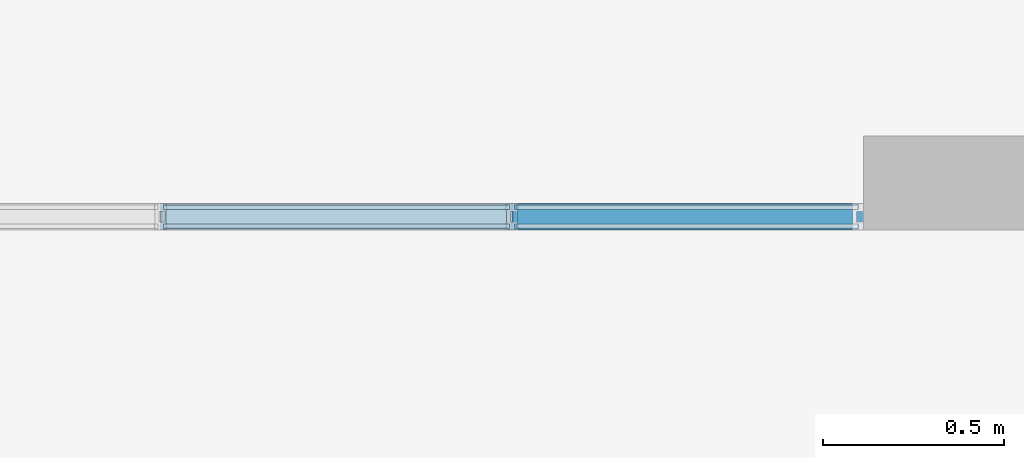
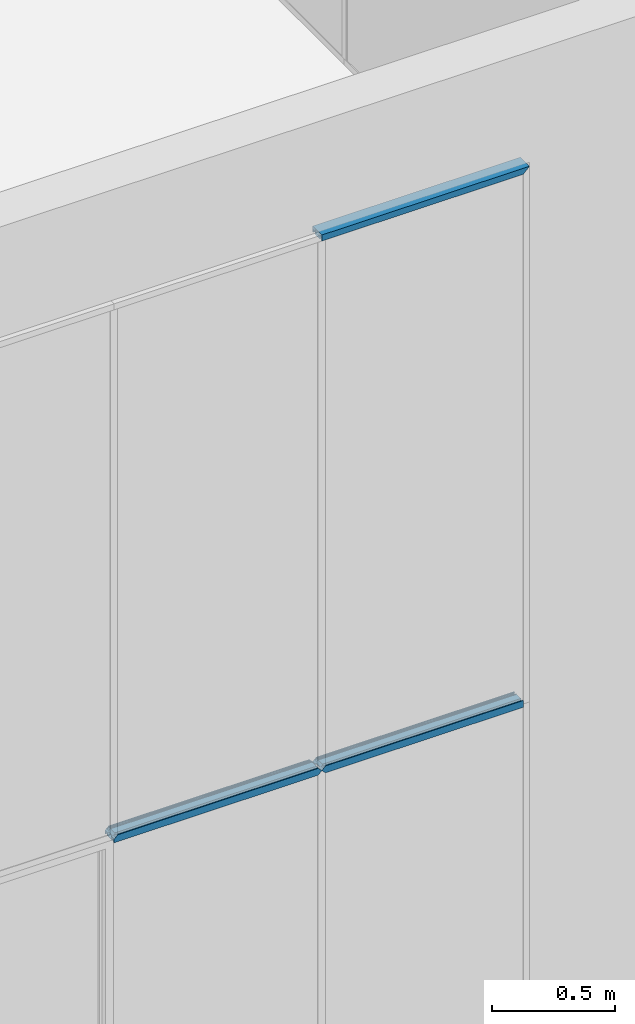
# One storey, part 88 of 246: 3 members, 1 element without a shape of its own.
"""IFC2X3 building model written with IfcOpenShell, lengths in millimetres."""

from ifc_helpers import new_model, entity, si_unit, converted_unit, derived_unit, money_unit, direction, frame, origin_with_axes, place, context, subcontext, project, spatial, faceted_brep, material, material_list, type_object, element, aggregate, save


model = new_model("IFC2X3")

# Units and contexts
model_context = context("Model", 3, precision=0.01, world=origin_with_axes(), true_north=direction((0.0, 1.0)))
body_context = subcontext(model_context, "Body", "Model", "MODEL_VIEW")
ifc_project = project(units=[si_unit("LENGTHUNIT", "METRE", prefix="MILLI"), si_unit("AREAUNIT", "SQUARE_METRE"), si_unit("VOLUMEUNIT", "CUBIC_METRE"), converted_unit("PLANEANGLEUNIT", "DEGREE", entity("IfcPlaneAngleMeasure", 0.0174532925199), si_unit("PLANEANGLEUNIT", "RADIAN"), dimensions=[0, 0, 0, 0, 0, 0, 0]), si_unit("SOLIDANGLEUNIT", "STERADIAN"), money_unit("EUR"), converted_unit("TIMEUNIT", "Year", entity("IfcTimeMeasure", 31556926.0), si_unit("TIMEUNIT", "SECOND"), dimensions=[0, 0, 1, 0, 0, 0, 0]), si_unit("MASSUNIT", "GRAM", prefix="KILO"), si_unit("THERMODYNAMICTEMPERATUREUNIT", "DEGREE_CELSIUS"), si_unit("LUMINOUSINTENSITYUNIT", "LUMEN"), si_unit("ENERGYUNIT", "JOULE", prefix="MEGA"), derived_unit("THERMALCONDUCTANCEUNIT", [(si_unit("POWERUNIT", "WATT"), 1), (si_unit("LENGTHUNIT", "METRE"), -1), (si_unit("THERMODYNAMICTEMPERATUREUNIT", "KELVIN"), -1)]), derived_unit("SPECIFICHEATCAPACITYUNIT", [(si_unit("ENERGYUNIT", "JOULE"), 1), (si_unit("MASSUNIT", "GRAM", prefix="KILO"), -1), (si_unit("THERMODYNAMICTEMPERATUREUNIT", "KELVIN"), -1)]), derived_unit("MASSDENSITYUNIT", [(si_unit("MASSUNIT", "GRAM", prefix="KILO"), 1), (si_unit("VOLUMEUNIT", "CUBIC_METRE"), -1)])], contexts=[model_context])

# Site, building, storey
site_placement = place(None, origin_with_axes())
site = spatial("IfcSite", under=ifc_project, at=site_placement, Name="L.Koidula tn 11b", CompositionType="ELEMENT")
building_placement = place(site_placement, origin_with_axes())
building = spatial("IfcBuilding", under=site, at=building_placement, Name="Rakvere Riigigümnaasium", CompositionType="ELEMENT")
storey_placement = place(building_placement, origin_with_axes())
storey = spatial("IfcBuildingStorey", under=building, at=storey_placement, Name="1.korrus 0,00", CompositionType="ELEMENT", Elevation=0.0)

# Curtain wall, members
curtain_wall_type = type_object("IfcCurtainWallType", Name="Curtain Wall Type", PredefinedType="NOTDEFINED")
curtain_wall_placement = place(storey_placement, frame((26572.4999007, 61372.4546496, 0.0), z_axis=(0.0, 0.0, 1.0), x_axis=(1.0, 0.0, 0.0)))
curtain_wall = element("IfcCurtainWall", 1, at=curtain_wall_placement, inside=storey, type_object=curtain_wall_type, Name="SKLF-01")
ifc_material_1 = material(Name="Klaasvill")
ifc_material_2 = material(Name="Teras RAL7012")
ifc_material_list = material_list([ifc_material_1, ifc_material_2])
member_type_1 = type_object("IfcMemberType", Name="Boundary Frame 30 x 42", PredefinedType="MULLION")
member_1_placement = place(curtain_wall_placement, frame((1945.0, 0.0, 5050.0), z_axis=(1.0, 0.0, 0.0), x_axis=(0.0, 0.0, 1.0)))
member_1 = element("IfcMember", 2, at=member_1_placement, type_object=member_type_1, material=ifc_material_list, Name="SKLF-70-raam", ObjectType="MULLION", context=body_context, shape_type="Brep", body=[
    faceted_brep([(-7.49999990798, 15.000000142, 0.0), (-7.49999990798, 15.000000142, 964.99009084), (-13.8499999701, 15.000000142, 958.640090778), (-13.8499999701, 15.000000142, 0.0), (-7.49999990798, 29.0161444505, 0.0), (-7.49999990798, 29.0161444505, 964.99009084), (-13.8499999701, 29.0161444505, 958.640090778), (-13.8499999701, 29.0161444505, 0.0)], [[[0, 1, 2, 3]], [[4, 5, 1, 0]], [[1, 5, 6, 2]], [[3, 2, 6, 7]], [[0, 3, 7, 4]], [[7, 6, 5, 4]]]),
    faceted_brep([(-24.987414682, 29.0161444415, 0.0), (-24.987414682, 29.0161444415, 947.502676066), (-25.004489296, 27.0307503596, 947.485601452), (-25.004489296, 27.0307503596, 0.0), (-28.5126239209, 29.0161444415, 0.0), (-28.5126239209, 29.0161444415, 943.977466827), (-28.7655837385, 28.0385325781, 943.724507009), (-28.4955493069, 27.0307503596, 943.994541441), (-27.75780152, 26.2930025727, 944.732289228), (-26.7500193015, 26.0229681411, 945.740071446), (-25.742237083, 26.2930025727, 946.747853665), (-25.742237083, 26.2930025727, 0.0), (-26.7500193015, 26.0229681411, 0.0), (-27.75780152, 26.2930025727, 0.0), (-28.4955493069, 27.0307503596, 0.0), (-28.7655837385, 28.0385325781, 0.0)], [[[0, 1, 2, 3]], [[4, 5, 1, 0]], [[1, 5, 6, 7, 8, 9, 10, 2]], [[3, 2, 10, 11]], [[0, 3, 11, 12, 13, 14, 15, 4]], [[15, 6, 5, 4]], [[14, 7, 6, 15]], [[13, 8, 7, 14]], [[12, 9, 8, 13]], [[11, 10, 9, 12]]]),
    faceted_brep([(-7.49999990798, -24.9999997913, 0.0), (-7.49999990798, -24.9999997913, 964.99009084), (-7.49999990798, -39.0161445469, 964.99009084), (-7.49999990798, -39.0161445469, 0.0), (-13.8499999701, -24.9999997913, 0.0), (-13.8499999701, -24.9999997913, 958.640090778), (-13.8499999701, -39.0161445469, 958.640090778), (-13.8499999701, -39.0161445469, 0.0)], [[[0, 1, 2, 3]], [[4, 5, 1, 0]], [[1, 5, 6, 2]], [[3, 2, 6, 7]], [[0, 3, 7, 4]], [[7, 6, 5, 4]]]),
    faceted_brep([(-25.004489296, -37.0307503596, 0.0), (-25.004489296, -37.0307503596, 947.485601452), (-24.987414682, -39.0161444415, 947.502676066), (-24.987414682, -39.0161444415, 0.0), (-25.742237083, -36.2930025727, 0.0), (-25.742237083, -36.2930025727, 946.747853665), (-26.7500193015, -36.0229681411, 945.740071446), (-27.75780152, -36.2930025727, 944.732289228), (-28.4955493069, -37.0307503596, 943.994541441), (-28.7655837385, -38.0385325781, 943.724507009), (-28.5126239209, -39.0161444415, 943.977466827), (-28.5126239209, -39.0161444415, 0.0), (-28.7655837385, -38.0385325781, 0.0), (-28.4955493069, -37.0307503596, 0.0), (-27.75780152, -36.2930025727, 0.0), (-26.7500193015, -36.0229681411, 0.0)], [[[0, 1, 2, 3]], [[4, 5, 1, 0]], [[1, 5, 6, 7, 8, 9, 10, 2]], [[3, 2, 10, 11]], [[0, 3, 11, 12, 13, 14, 15, 4]], [[15, 6, 5, 4]], [[14, 7, 6, 15]], [[13, 8, 7, 14]], [[12, 9, 8, 13]], [[11, 10, 9, 12]]]),
    faceted_brep([(0.0, -22.0000000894, 0.0), (0.0, -22.0000000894, 972.490090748), (-29.5999996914, -22.0000000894, 942.890091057), (-29.5999996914, -22.0000000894, 0.0), (0.0, 12.0000000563, 0.0), (0.0, 12.0000000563, 972.490090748), (-29.5999996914, 12.0000000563, 942.890091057), (-1.9999999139, 10.0000001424, 970.490090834), (-1.9999999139, -20.0000001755, 970.490090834), (-18.7999996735, -20.0000001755, 953.690091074), (-18.7999996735, 10.0000001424, 953.690091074), (-29.5999996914, 12.0000000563, 0.0), (-1.9999999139, 10.0000001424, 0.0), (-18.7999996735, 10.0000001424, 0.0), (-18.7999996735, -20.0000001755, 0.0), (-1.9999999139, -20.0000001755, 0.0)], [[[0, 1, 2, 3]], [[4, 5, 1, 0]], [[1, 5, 6, 2], [7, 8, 9, 10]], [[3, 2, 6, 11]], [[0, 3, 11, 4], [12, 13, 14, 15]], [[11, 6, 5, 4]], [[15, 8, 7, 12]], [[14, 9, 8, 15]], [[13, 10, 9, 14]], [[12, 7, 10, 13]]]),
    faceted_brep([(0.0, 12.0, 0.0), (0.0, 12.0, 972.490090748), (-29.5999996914, 12.0000000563, 942.890091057), (-29.5999996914, 12.0000000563, 0.0), (0.0, 32.0, 0.0), (0.0, 32.0, 972.490090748), (-30.0000193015, 32.0, 942.490071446), (-30.0000193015, 29.0161444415, 942.490071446), (-28.5126239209, 29.0161444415, 943.977466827), (-24.987414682, 29.0161444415, 947.502676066), (-13.8499999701, 29.0161444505, 958.640090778), (-7.49999999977, 29.0161444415, 964.990090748), (-7.49999999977, 15.0, 964.990090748), (-13.8499999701, 15.000000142, 958.640090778), (-30.0000193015, 15.0, 942.490071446), (-30.0000193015, 12.0, 942.490071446), (-30.0000193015, 12.0, 0.0), (-30.0000193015, 15.0, 0.0), (-13.8499999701, 15.000000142, 0.0), (-7.49999999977, 15.0, 0.0), (-7.49999999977, 29.0161444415, 0.0), (-13.8499999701, 29.0161444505, 0.0), (-24.987414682, 29.0161444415, 0.0), (-28.5126239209, 29.0161444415, 0.0), (-30.0000193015, 29.0161444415, 0.0), (-30.0000193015, 32.0, 0.0)], [[[0, 1, 2, 3]], [[4, 5, 1, 0]], [[1, 5, 6, 7, 8, 9, 10, 11, 12, 13, 14, 15, 2]], [[3, 2, 15, 16]], [[0, 3, 16, 17, 18, 19, 20, 21, 22, 23, 24, 25, 4]], [[25, 6, 5, 4]], [[24, 7, 6, 25]], [[23, 8, 7, 24]], [[22, 9, 8, 23]], [[21, 10, 9, 22]], [[20, 11, 10, 21]], [[19, 12, 11, 20]], [[18, 13, 12, 19]], [[17, 14, 13, 18]], [[16, 15, 14, 17]]]),
    faceted_brep([(0.0, -22.0, 0.0), (0.0, -22.0, 972.490090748), (0.0, -42.0, 972.490090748), (0.0, -42.0, 0.0), (-29.5999996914, -22.0000000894, 0.0), (-29.5999996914, -22.0000000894, 942.890091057), (-30.0000193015, -22.0, 942.490071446), (-30.0000193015, -25.0, 942.490071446), (-13.8499999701, -24.9999997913, 958.640090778), (-7.49999999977, -25.0, 964.990090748), (-7.49999999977, -39.0161444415, 964.990090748), (-13.8499999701, -39.0161445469, 958.640090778), (-24.987414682, -39.0161444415, 947.502676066), (-28.5126239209, -39.0161444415, 943.977466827), (-30.0000193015, -39.0161444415, 942.490071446), (-30.0000193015, -42.0, 942.490071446), (-30.0000193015, -42.0, 0.0), (-30.0000193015, -39.0161444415, 0.0), (-28.5126239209, -39.0161444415, 0.0), (-24.987414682, -39.0161444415, 0.0), (-13.8499999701, -39.0161445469, 0.0), (-7.49999999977, -39.0161444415, 0.0), (-7.49999999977, -25.0, 0.0), (-13.8499999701, -24.9999997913, 0.0), (-30.0000193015, -25.0, 0.0), (-30.0000193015, -22.0, 0.0)], [[[0, 1, 2, 3]], [[4, 5, 1, 0]], [[1, 5, 6, 7, 8, 9, 10, 11, 12, 13, 14, 15, 2]], [[3, 2, 15, 16]], [[0, 3, 16, 17, 18, 19, 20, 21, 22, 23, 24, 25, 4]], [[25, 6, 5, 4]], [[24, 7, 6, 25]], [[23, 8, 7, 24]], [[22, 9, 8, 23]], [[21, 10, 9, 22]], [[20, 11, 10, 21]], [[19, 12, 11, 20]], [[18, 13, 12, 19]], [[17, 14, 13, 18]], [[16, 15, 14, 17]]]),
])
member_type_2 = type_object("IfcMemberType", Name="Siseklaasfassaad-Vaheprofiil-Doubleline30 34 x 42", PredefinedType="MULLION")
member_2_placement = place(curtain_wall_placement, frame((972.5, 0.0, 2400.0), z_axis=(1.0, 0.0, 0.0), x_axis=(0.0, 0.0, 1.0)))
member_2 = element("IfcMember", 3, at=member_2_placement, type_object=member_type_2, material=ifc_material_list, Name="Frame-Siseklaasf-021", ObjectType="MULLION", context=body_context, shape_type="Brep", body=[
    faceted_brep([(15.4955493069, 27.0307503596, 15.4955493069), (15.7655837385, 28.0385325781, 15.7655837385), (15.7655837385, 28.0385325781, 956.734416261), (15.4955493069, 27.0307503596, 957.004450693), (15.5126239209, 29.0161444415, 15.5126239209), (14.75780152, 26.2930025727, 14.75780152), (13.7500193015, 26.0229681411, 13.7500193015), (12.742237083, 26.2930025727, 12.742237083), (12.004489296, 27.0307503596, 12.004489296), (11.987414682, 29.0161444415, 11.987414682), (15.5126239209, 29.0161444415, 956.987376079), (12.742237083, 26.2930025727, 959.757762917), (13.7500193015, 26.0229681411, 958.749980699), (14.75780152, 26.2930025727, 957.74219848), (11.987414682, 29.0161444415, 960.512585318), (12.004489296, 27.0307503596, 960.495510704)], [[[0, 1, 2, 3]], [[4, 1, 0, 5, 6, 7, 8, 9]], [[1, 4, 10, 2]], [[11, 12, 13, 3, 2, 10, 14, 15]], [[5, 0, 3, 13]], [[6, 5, 13, 12]], [[7, 6, 12, 11]], [[8, 7, 11, 15]], [[9, 8, 15, 14]], [[4, 9, 14, 10]]]),
    faceted_brep([(11.987414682, -39.0161444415, 11.987414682), (15.5126239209, -39.0161444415, 15.5126239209), (15.5126239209, -39.0161444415, 956.987376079), (11.987414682, -39.0161444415, 960.512585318), (15.4955493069, -37.0307503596, 15.4955493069), (11.7344548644, -38.0385325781, 11.7344548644), (12.004489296, -37.0307503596, 12.004489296), (12.742237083, -36.2930025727, 12.742237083), (13.7500193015, -36.0229681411, 13.7500193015), (14.75780152, -36.2930025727, 14.75780152), (15.4955493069, -37.0307503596, 957.004450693), (12.742237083, -36.2930025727, 959.757762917), (12.004489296, -37.0307503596, 960.495510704), (11.7344548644, -38.0385325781, 960.765545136), (14.75780152, -36.2930025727, 957.74219848), (13.7500193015, -36.0229681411, 958.749980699)], [[[0, 1, 2, 3]], [[4, 1, 0, 5, 6, 7, 8, 9]], [[1, 4, 10, 2]], [[11, 12, 13, 3, 2, 10, 14, 15]], [[5, 0, 3, 13]], [[6, 5, 13, 12]], [[7, 6, 12, 11]], [[8, 7, 11, 15]], [[9, 8, 15, 14]], [[4, 9, 14, 10]]]),
    faceted_brep([(-11.987414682, 29.0161444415, 960.512585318), (-11.7344548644, 28.0385325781, 960.765545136), (-11.7344548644, 28.0385325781, 0.0), (-11.987414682, 29.0161444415, 0.0), (-12.004489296, 27.0307503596, 960.495510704), (-15.7655837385, 28.0385325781, 956.734416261), (-15.4955493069, 27.0307503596, 957.004450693), (-14.75780152, 26.2930025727, 957.74219848), (-13.7500193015, 26.0229681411, 958.749980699), (-12.742237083, 26.2930025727, 959.757762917), (-12.004489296, 27.0307503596, 0.0), (-14.75780152, 26.2930025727, 0.0), (-15.4955493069, 27.0307503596, 0.0), (-15.7655837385, 28.0385325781, 0.0), (-12.742237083, 26.2930025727, 0.0), (-13.7500193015, 26.0229681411, 0.0)], [[[0, 1, 2, 3]], [[4, 1, 0, 5, 6, 7, 8, 9]], [[1, 4, 10, 2]], [[11, 12, 13, 3, 2, 10, 14, 15]], [[5, 0, 3, 13]], [[6, 5, 13, 12]], [[7, 6, 12, 11]], [[8, 7, 11, 15]], [[9, 8, 15, 14]], [[4, 9, 14, 10]]]),
    faceted_brep([(-12.004489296, -37.0307503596, 960.495510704), (-11.7344548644, -38.0385325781, 960.765545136), (-11.7344548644, -38.0385325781, 0.0), (-12.004489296, -37.0307503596, 0.0), (-11.987414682, -39.0161444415, 960.512585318), (-12.742237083, -36.2930025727, 959.757762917), (-13.7500193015, -36.0229681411, 958.749980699), (-14.75780152, -36.2930025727, 957.74219848), (-15.4955493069, -37.0307503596, 957.004450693), (-15.5126239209, -39.0161444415, 956.987376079), (-11.987414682, -39.0161444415, 0.0), (-15.5126239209, -39.0161444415, 0.0), (-15.4955493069, -37.0307503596, 0.0), (-14.75780152, -36.2930025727, 0.0), (-13.7500193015, -36.0229681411, 0.0), (-12.742237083, -36.2930025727, 0.0)], [[[0, 1, 2, 3]], [[4, 1, 0, 5, 6, 7, 8, 9]], [[1, 4, 10, 2]], [[2, 10, 11, 12, 13, 14, 15, 3]], [[5, 0, 3, 15]], [[6, 5, 15, 14]], [[7, 6, 14, 13]], [[8, 7, 13, 12]], [[9, 8, 12, 11]], [[4, 9, 11, 10]]]),
    faceted_brep([(14.8000003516, -22.0000000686, 14.8000003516), (14.8000003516, 12.0000001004, 14.8000003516), (14.8000003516, 12.0000001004, 957.699999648), (14.8000003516, -22.0000000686, 957.699999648), (0.0, 12.0000001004, 0.0), (0.0, -22.0000000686, 0.0), (0.0, -20.0000001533, 0.0), (4.0000003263, -20.0000001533, 4.0000003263), (4.0000003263, 10.0000001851, 4.0000003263), (0.0, 10.0000001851, 0.0), (0.0, 12.0000001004, 972.5), (4.0000003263, -20.0000001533, 968.499999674), (0.0, -20.0000001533, 972.5), (0.0, -22.0000000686, 972.5), (0.0, 10.0000001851, 972.5), (4.0000003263, 10.0000001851, 968.499999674), (-14.8000001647, -22.0000000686, 0.0), (-14.8000001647, 12.0000001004, 0.0), (-12.8000002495, 10.0000001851, 0.0), (-12.8000002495, -20.0000001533, 0.0), (-12.8000002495, -20.0000001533, 959.699999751), (-12.8000002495, 10.0000001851, 959.699999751), (-14.8000001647, 12.0000001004, 957.699999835), (-14.8000001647, -22.0000000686, 957.699999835)], [[[0, 1, 2, 3]], [[4, 1, 0, 5, 6, 7, 8, 9]], [[1, 4, 10, 2]], [[11, 12, 13, 3, 2, 10, 14, 15]], [[5, 0, 3, 13]], [[6, 5, 16, 17, 4, 9, 18, 19]], [[7, 6, 19, 20, 12, 11]], [[8, 7, 11, 15]], [[9, 8, 15, 14, 21, 18]], [[10, 4, 17, 22]], [[20, 21, 14, 10, 22, 23, 13, 12]], [[23, 16, 5, 13]], [[22, 17, 16, 23]], [[20, 19, 18, 21]]]),
    faceted_brep([(17.0000193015, 29.0161446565, 17.0000193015), (17.0000193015, 32.0000000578, 17.0000193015), (17.0000193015, 32.0000000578, 955.499980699), (17.0000193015, 29.0161446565, 955.499980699), (0.0, 32.0000000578, 0.0), (15.5126239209, 29.0161444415, 15.5126239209), (11.987414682, 29.0161444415, 11.987414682), (7.50000002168, 29.0161446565, 7.50000002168), (7.50000002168, 15.0000000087, 7.50000002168), (17.0000193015, 15.0000000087, 17.0000193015), (17.0000193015, 12.0, 17.0000193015), (14.8000003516, 12.0000001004, 14.8000003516), (0.0, 12.0, 0.0), (0.0, 32.0000000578, 972.5), (7.50000002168, 29.0161446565, 964.999999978), (11.987414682, 29.0161444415, 960.512585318), (15.5126239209, 29.0161444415, 956.987376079), (0.0, 12.0, 972.5), (14.8000003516, 12.0000001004, 957.699999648), (17.0000193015, 12.0, 955.499980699), (17.0000193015, 15.0000000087, 955.499980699), (7.50000002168, 15.0000000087, 964.999999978)], [[[0, 1, 2, 3]], [[4, 1, 0, 5, 6, 7, 8, 9, 10, 11, 12]], [[1, 4, 13, 2]], [[14, 15, 16, 3, 2, 13, 17, 18, 19, 20, 21]], [[5, 0, 3, 16]], [[6, 5, 16, 15]], [[7, 6, 15, 14]], [[8, 7, 14, 21]], [[9, 8, 21, 20]], [[10, 9, 20, 19]], [[11, 10, 19, 18]], [[12, 11, 18, 17]], [[4, 12, 17, 13]]]),
    faceted_brep([(17.0000193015, -24.9999999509, 17.0000193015), (17.0000193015, -21.9999999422, 17.0000193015), (17.0000193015, -21.9999999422, 955.499980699), (17.0000193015, -24.9999999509, 955.499980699), (14.8000003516, -22.0000000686, 14.8000003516), (7.50000002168, -24.9999999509, 7.50000002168), (7.50000002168, -39.0161445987, 7.50000002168), (11.987414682, -39.0161444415, 11.987414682), (15.5126239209, -39.0161444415, 15.5126239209), (17.0000193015, -39.0161445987, 17.0000193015), (17.0000193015, -42.0, 17.0000193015), (0.0, -42.0, 0.0), (0.0, -21.9999999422, 0.0), (14.8000003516, -22.0000000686, 957.699999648), (11.987414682, -39.0161444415, 960.512585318), (7.50000002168, -39.0161445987, 964.999999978), (7.50000002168, -24.9999999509, 964.999999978), (0.0, -21.9999999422, 972.5), (0.0, -42.0, 972.5), (17.0000193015, -42.0, 955.499980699), (17.0000193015, -39.0161445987, 955.499980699), (15.5126239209, -39.0161444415, 956.987376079)], [[[0, 1, 2, 3]], [[4, 1, 0, 5, 6, 7, 8, 9, 10, 11, 12]], [[1, 4, 13, 2]], [[14, 15, 16, 3, 2, 13, 17, 18, 19, 20, 21]], [[5, 0, 3, 16]], [[6, 5, 16, 15]], [[7, 6, 15, 14]], [[8, 7, 14, 21]], [[9, 8, 21, 20]], [[10, 9, 20, 19]], [[11, 10, 19, 18]], [[12, 11, 18, 17]], [[4, 12, 17, 13]]]),
    faceted_brep([(-17.0000193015, 32.0, 955.499980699), (0.0, 32.0, 972.5), (0.0, 32.0, 0.0), (-17.0000193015, 32.0, 0.0), (-17.0000193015, 29.0161444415, 955.499980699), (-15.5126239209, 29.0161444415, 956.987376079), (-11.987414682, 29.0161444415, 960.512585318), (-7.49999999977, 29.0161444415, 965.0), (-7.49999999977, 15.0, 965.0), (-17.0000193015, 15.0, 955.499980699), (-17.0000193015, 12.0, 955.499980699), (-14.8000001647, 12.0000001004, 957.699999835), (0.0, 12.0, 972.5), (0.0, 12.0, 0.0), (-17.0000193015, 29.0161444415, 0.0), (-14.8000001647, 12.0000001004, 0.0), (-17.0000193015, 12.0, 0.0), (-17.0000193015, 15.0, 0.0), (-7.49999999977, 15.0, 0.0), (-7.49999999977, 29.0161444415, 0.0), (-11.987414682, 29.0161444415, 0.0), (-15.5126239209, 29.0161444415, 0.0)], [[[0, 1, 2, 3]], [[1, 0, 4, 5, 6, 7, 8, 9, 10, 11, 12]], [[1, 12, 13, 2]], [[14, 3, 2, 13, 15, 16, 17, 18, 19, 20, 21]], [[4, 0, 3, 14]], [[5, 4, 14, 21]], [[6, 5, 21, 20]], [[7, 6, 20, 19]], [[8, 7, 19, 18]], [[9, 8, 18, 17]], [[10, 9, 17, 16]], [[11, 10, 16, 15]], [[12, 11, 15, 13]]]),
    faceted_brep([(-14.8000001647, -22.0000000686, 957.699999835), (0.0, -22.0, 972.5), (0.0, -22.0, 0.0), (-14.8000001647, -22.0000000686, 0.0), (-17.0000193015, -22.0, 955.499980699), (-17.0000193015, -25.0, 955.499980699), (-7.49999999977, -25.0, 965.0), (-7.49999999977, -39.0161444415, 965.0), (-11.987414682, -39.0161444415, 960.512585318), (-15.5126239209, -39.0161444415, 956.987376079), (-17.0000193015, -39.0161444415, 955.499980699), (-17.0000193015, -42.0, 955.499980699), (0.0, -42.0, 972.5), (0.0, -42.0, 0.0), (-17.0000193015, -25.0, 0.0), (-17.0000193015, -22.0, 0.0), (-17.0000193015, -42.0, 0.0), (-17.0000193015, -39.0161444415, 0.0), (-15.5126239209, -39.0161444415, 0.0), (-11.987414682, -39.0161444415, 0.0), (-7.49999999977, -39.0161444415, 0.0), (-7.49999999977, -25.0, 0.0)], [[[0, 1, 2, 3]], [[1, 0, 4, 5, 6, 7, 8, 9, 10, 11, 12]], [[1, 12, 13, 2]], [[14, 15, 3, 2, 13, 16, 17, 18, 19, 20, 21]], [[4, 0, 3, 15]], [[5, 4, 15, 14]], [[6, 5, 14, 21]], [[7, 6, 21, 20]], [[8, 7, 20, 19]], [[9, 8, 19, 18]], [[10, 9, 18, 17]], [[11, 10, 17, 16]], [[12, 11, 16, 13]]]),
])
member_3_placement = place(curtain_wall_placement, frame((1945.0, 0.0, 2400.0), z_axis=(1.0, 0.0, 0.0), x_axis=(0.0, 0.0, 1.0)))
member_3 = element("IfcMember", 4, at=member_3_placement, type_object=member_type_2, material=ifc_material_list, Name="Frame-Siseklaasf-021", ObjectType="MULLION", context=body_context, shape_type="Brep", body=[
    faceted_brep([(15.4955493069, 27.0307503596, 15.4955493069), (15.7655837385, 28.0385325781, 15.7655837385), (15.7655837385, 28.0385325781, 942.490071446), (15.4955493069, 27.0307503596, 942.490071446), (15.5126239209, 29.0161444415, 15.5126239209), (14.75780152, 26.2930025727, 14.75780152), (13.7500193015, 26.0229681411, 13.7500193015), (12.742237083, 26.2930025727, 12.742237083), (12.004489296, 27.0307503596, 12.004489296), (11.987414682, 29.0161444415, 11.987414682), (15.5126239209, 29.0161444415, 942.490071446), (11.987414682, 29.0161444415, 942.490071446), (12.004489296, 27.0307503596, 942.490071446), (12.742237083, 26.2930025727, 942.490071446), (13.7500193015, 26.0229681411, 942.490071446), (14.75780152, 26.2930025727, 942.490071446)], [[[0, 1, 2, 3]], [[4, 1, 0, 5, 6, 7, 8, 9]], [[1, 4, 10, 2]], [[3, 2, 10, 11, 12, 13, 14, 15]], [[5, 0, 3, 15]], [[6, 5, 15, 14]], [[7, 6, 14, 13]], [[8, 7, 13, 12]], [[9, 8, 12, 11]], [[4, 9, 11, 10]]]),
    faceted_brep([(11.987414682, -39.0161444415, 11.987414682), (15.5126239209, -39.0161444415, 15.5126239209), (15.5126239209, -39.0161444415, 942.490071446), (11.987414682, -39.0161444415, 942.490071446), (15.4955493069, -37.0307503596, 15.4955493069), (11.7344548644, -38.0385325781, 11.7344548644), (12.004489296, -37.0307503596, 12.004489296), (12.742237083, -36.2930025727, 12.742237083), (13.7500193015, -36.0229681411, 13.7500193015), (14.75780152, -36.2930025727, 14.75780152), (15.4955493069, -37.0307503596, 942.490071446), (12.004489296, -37.0307503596, 942.490071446), (11.7344548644, -38.0385325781, 942.490071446), (14.75780152, -36.2930025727, 942.490071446), (13.7500193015, -36.0229681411, 942.490071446), (12.742237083, -36.2930025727, 942.490071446)], [[[0, 1, 2, 3]], [[4, 1, 0, 5, 6, 7, 8, 9]], [[1, 4, 10, 2]], [[11, 12, 3, 2, 10, 13, 14, 15]], [[5, 0, 3, 12]], [[6, 5, 12, 11]], [[7, 6, 11, 15]], [[8, 7, 15, 14]], [[9, 8, 14, 13]], [[4, 9, 13, 10]]]),
    faceted_brep([(-12.004489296, 27.0307503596, 12.004489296), (-11.7344548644, 28.0385325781, 11.7344548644), (-11.7344548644, 28.0385325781, 942.490071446), (-12.004489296, 27.0307503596, 942.490071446), (-11.987414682, 29.0161444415, 11.987414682), (-12.742237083, 26.2930025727, 12.742237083), (-13.7500193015, 26.0229681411, 13.7500193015), (-14.75780152, 26.2930025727, 14.75780152), (-15.4955493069, 27.0307503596, 15.4955493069), (-15.7655837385, 28.0385325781, 15.7655837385), (-11.987414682, 29.0161444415, 942.490071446), (-12.742237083, 26.2930025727, 942.490071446), (-15.7655837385, 28.0385325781, 942.490071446), (-15.4955493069, 27.0307503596, 942.490071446), (-14.75780152, 26.2930025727, 942.490071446), (-13.7500193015, 26.0229681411, 942.490071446)], [[[0, 1, 2, 3]], [[4, 1, 0, 5, 6, 7, 8, 9]], [[1, 4, 10, 2]], [[11, 3, 2, 10, 12, 13, 14, 15]], [[5, 0, 3, 11]], [[6, 5, 11, 15]], [[7, 6, 15, 14]], [[8, 7, 14, 13]], [[9, 8, 13, 12]], [[4, 9, 12, 10]]]),
    faceted_brep([(-11.987414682, -39.0161444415, 11.987414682), (-11.7344548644, -38.0385325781, 11.7344548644), (-11.7344548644, -38.0385325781, 942.490071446), (-11.987414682, -39.0161444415, 942.490071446), (-12.004489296, -37.0307503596, 12.004489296), (-15.5126239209, -39.0161444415, 15.5126239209), (-15.4955493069, -37.0307503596, 15.4955493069), (-14.75780152, -36.2930025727, 14.75780152), (-13.7500193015, -36.0229681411, 13.7500193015), (-12.742237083, -36.2930025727, 12.742237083), (-12.004489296, -37.0307503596, 942.490071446), (-12.742237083, -36.2930025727, 942.490071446), (-13.7500193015, -36.0229681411, 942.490071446), (-14.75780152, -36.2930025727, 942.490071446), (-15.4955493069, -37.0307503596, 942.490071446), (-15.5126239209, -39.0161444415, 942.490071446)], [[[0, 1, 2, 3]], [[4, 1, 0, 5, 6, 7, 8, 9]], [[1, 4, 10, 2]], [[11, 12, 13, 14, 15, 3, 2, 10]], [[5, 0, 3, 15]], [[6, 5, 15, 14]], [[7, 6, 14, 13]], [[8, 7, 13, 12]], [[9, 8, 12, 11]], [[4, 9, 11, 10]]]),
    faceted_brep([(-12.8000002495, 10.0000001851, 12.8000002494), (0.0, 10.0000001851, 0.0), (4.0000003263, 10.0000001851, 4.0000003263), (4.0000003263, 10.0000001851, 942.490071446), (-12.8000002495, 10.0000001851, 942.490071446), (-14.8000001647, 12.0000001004, 14.8000001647), (0.0, 12.0000001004, 0.0), (-12.8000002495, -20.0000001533, 12.8000002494), (0.0, -20.0000001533, 0.0), (0.0, -22.0000000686, 0.0), (-14.8000001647, -22.0000000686, 14.8000001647), (14.8000003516, 12.0000001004, 14.8000003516), (14.8000003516, -22.0000000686, 14.8000003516), (4.0000003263, -20.0000001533, 4.0000003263), (4.0000003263, -20.0000001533, 942.490071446), (14.8000003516, 12.0000001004, 942.490071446), (-3.08905781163e-07, 12.0000001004, 942.490071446), (-14.8000001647, 12.0000001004, 942.490071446), (-14.8000001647, -22.0000000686, 942.490071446), (-3.08905781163e-07, -22.0000000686, 942.490071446), (14.8000003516, -22.0000000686, 942.490071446), (-12.8000002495, -20.0000001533, 942.490071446)], [[[0, 1, 2, 3, 4]], [[5, 6, 1, 0, 7, 8, 9, 10]], [[6, 11, 12, 9, 8, 13, 2, 1]], [[2, 13, 14, 3]], [[15, 16, 17, 18, 19, 20], [3, 14, 21, 4]], [[7, 0, 4, 21]], [[6, 5, 17, 16]], [[8, 7, 21, 14, 13]], [[10, 9, 19, 18]], [[5, 10, 18, 17]], [[11, 6, 16, 15]], [[12, 11, 15, 20]], [[9, 12, 20, 19]]]),
    faceted_brep([(17.0000193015, 29.0161446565, 17.0000193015), (17.0000193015, 32.0000000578, 17.0000193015), (17.0000193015, 32.0000000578, 942.490071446), (17.0000193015, 29.0161446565, 942.490071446), (0.0, 32.0000000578, 0.0), (15.5126239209, 29.0161444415, 15.5126239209), (11.987414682, 29.0161444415, 11.987414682), (7.50000002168, 29.0161446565, 7.50000002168), (7.50000002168, 15.0000000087, 7.50000002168), (17.0000193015, 15.0000000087, 17.0000193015), (17.0000193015, 12.0, 17.0000193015), (14.8000003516, 12.0000001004, 14.8000003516), (0.0, 12.0, 0.0), (0.0, 32.0000000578, 942.490071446), (15.5126239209, 29.0161444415, 942.490071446), (0.0, 12.0, 942.490071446), (14.8000003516, 12.0000001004, 942.490071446), (17.0000193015, 12.0, 942.490071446), (17.0000193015, 15.0000000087, 942.490071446), (7.50000002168, 15.0000000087, 942.490071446), (7.50000002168, 29.0161446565, 942.490071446), (11.987414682, 29.0161444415, 942.490071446)], [[[0, 1, 2, 3]], [[4, 1, 0, 5, 6, 7, 8, 9, 10, 11, 12]], [[1, 4, 13, 2]], [[14, 3, 2, 13, 15, 16, 17, 18, 19, 20, 21]], [[5, 0, 3, 14]], [[6, 5, 14, 21]], [[7, 6, 21, 20]], [[8, 7, 20, 19]], [[9, 8, 19, 18]], [[10, 9, 18, 17]], [[11, 10, 17, 16]], [[12, 11, 16, 15]], [[4, 12, 15, 13]]]),
    faceted_brep([(17.0000193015, -24.9999999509, 17.0000193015), (17.0000193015, -21.9999999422, 17.0000193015), (17.0000193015, -21.9999999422, 942.490071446), (17.0000193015, -24.9999999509, 942.490071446), (14.8000003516, -22.0000000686, 14.8000003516), (7.50000002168, -24.9999999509, 7.50000002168), (7.50000002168, -39.0161445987, 7.50000002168), (11.987414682, -39.0161444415, 11.987414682), (15.5126239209, -39.0161444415, 15.5126239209), (17.0000193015, -39.0161445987, 17.0000193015), (17.0000193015, -42.0, 17.0000193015), (0.0, -42.0, 0.0), (0.0, -21.9999999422, 0.0), (14.8000003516, -22.0000000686, 942.490071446), (0.0, -21.9999999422, 942.490071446), (0.0, -42.0, 942.490071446), (17.0000193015, -42.0, 942.490071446), (17.0000193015, -39.0161445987, 942.490071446), (15.5126239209, -39.0161444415, 942.490071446), (11.987414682, -39.0161444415, 942.490071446), (7.50000002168, -39.0161445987, 942.490071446), (7.50000002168, -24.9999999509, 942.490071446)], [[[0, 1, 2, 3]], [[4, 1, 0, 5, 6, 7, 8, 9, 10, 11, 12]], [[1, 4, 13, 2]], [[3, 2, 13, 14, 15, 16, 17, 18, 19, 20, 21]], [[5, 0, 3, 21]], [[6, 5, 21, 20]], [[7, 6, 20, 19]], [[8, 7, 19, 18]], [[9, 8, 18, 17]], [[10, 9, 17, 16]], [[11, 10, 16, 15]], [[12, 11, 15, 14]], [[4, 12, 14, 13]]]),
    faceted_brep([(0.0, 12.0, 0.0), (0.0, 32.0, 0.0), (0.0, 32.0, 942.490071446), (0.0, 12.0, 942.490071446), (-17.0000193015, 32.0, 17.0000193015), (-14.8000001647, 12.0000001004, 14.8000001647), (-17.0000193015, 12.0, 17.0000193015), (-17.0000193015, 15.0, 17.0000193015), (-7.49999999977, 15.0, 7.49999999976), (-7.49999999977, 29.0161444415, 7.49999999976), (-11.987414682, 29.0161444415, 11.987414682), (-15.5126239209, 29.0161444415, 15.5126239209), (-17.0000193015, 29.0161444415, 17.0000193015), (-17.0000193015, 32.0, 942.490071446), (-17.0000193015, 15.0, 942.490071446), (-17.0000193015, 12.0, 942.490071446), (-14.8000001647, 12.0000001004, 942.490071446), (-17.0000193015, 29.0161444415, 942.490071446), (-15.5126239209, 29.0161444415, 942.490071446), (-11.987414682, 29.0161444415, 942.490071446), (-7.49999999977, 29.0161444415, 942.490071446), (-7.49999999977, 15.0, 942.490071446)], [[[0, 1, 2, 3]], [[4, 1, 0, 5, 6, 7, 8, 9, 10, 11, 12]], [[1, 4, 13, 2]], [[14, 15, 16, 3, 2, 13, 17, 18, 19, 20, 21]], [[5, 0, 3, 16]], [[6, 5, 16, 15]], [[7, 6, 15, 14]], [[8, 7, 14, 21]], [[9, 8, 21, 20]], [[10, 9, 20, 19]], [[11, 10, 19, 18]], [[12, 11, 18, 17]], [[4, 12, 17, 13]]]),
    faceted_brep([(0.0, -42.0, 0.0), (0.0, -22.0, 0.0), (0.0, -22.0, 942.490071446), (0.0, -42.0, 942.490071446), (-14.8000001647, -22.0000000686, 14.8000001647), (-17.0000193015, -42.0, 17.0000193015), (-17.0000193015, -39.0161444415, 17.0000193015), (-15.5126239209, -39.0161444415, 15.5126239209), (-11.987414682, -39.0161444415, 11.987414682), (-7.49999999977, -39.0161444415, 7.49999999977), (-7.49999999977, -25.0, 7.49999999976), (-17.0000193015, -25.0, 17.0000193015), (-17.0000193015, -22.0, 17.0000193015), (-14.8000001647, -22.0000000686, 942.490071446), (-17.0000193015, -39.0161444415, 942.490071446), (-17.0000193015, -42.0, 942.490071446), (-17.0000193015, -22.0, 942.490071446), (-17.0000193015, -25.0, 942.490071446), (-7.49999999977, -25.0, 942.490071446), (-7.49999999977, -39.0161444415, 942.490071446), (-11.987414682, -39.0161444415, 942.490071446), (-15.5126239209, -39.0161444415, 942.490071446)], [[[0, 1, 2, 3]], [[4, 1, 0, 5, 6, 7, 8, 9, 10, 11, 12]], [[1, 4, 13, 2]], [[14, 15, 3, 2, 13, 16, 17, 18, 19, 20, 21]], [[5, 0, 3, 15]], [[6, 5, 15, 14]], [[7, 6, 14, 21]], [[8, 7, 21, 20]], [[9, 8, 20, 19]], [[10, 9, 19, 18]], [[11, 10, 18, 17]], [[12, 11, 17, 16]], [[4, 12, 16, 13]]]),
])
aggregate(curtain_wall, [member_2, member_3, member_1])

save(model, "model.ifc")
